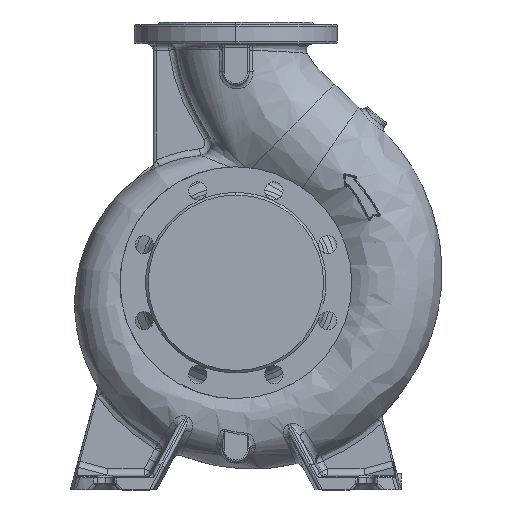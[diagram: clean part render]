
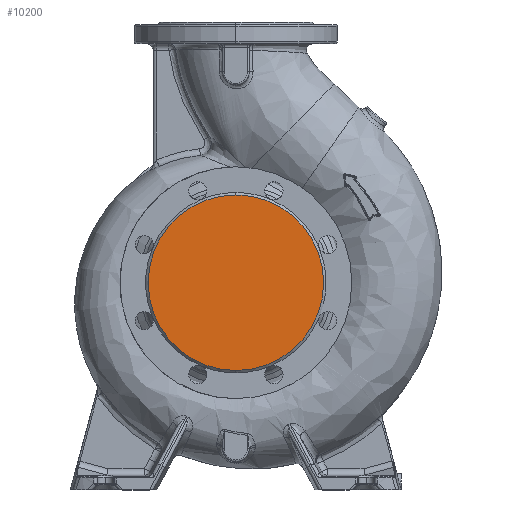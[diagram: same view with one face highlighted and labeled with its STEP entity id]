
A CAD part, top view. The second image highlights one B-rep face of the part: STEP entity #10200.
In plain terms, the highlighted planar face has unit normal (0, 0, 1).
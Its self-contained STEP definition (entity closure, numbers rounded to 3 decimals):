
#3052 = VERTEX_POINT ( 'NONE', #57705 ) ;
#4623 = CARTESIAN_POINT ( 'NONE',  ( 0., 0., 140. ) ) ;
#5466 = DIRECTION ( 'NONE',  ( 0., 0., -1. ) ) ;
#6826 = AXIS2_PLACEMENT_3D ( 'NONE', #63472, #5466, #62934 ) ;
#10200 = ADVANCED_FACE ( 'NONE', ( #71193 ), #60673, .F. ) ;
#13915 = CARTESIAN_POINT ( 'NONE',  ( 0., -106., 140. ) ) ;
#17178 = VERTEX_POINT ( 'NONE', #13915 ) ;
#18735 = ORIENTED_EDGE ( 'NONE', *, *, #60831, .F. ) ;
#34981 = DIRECTION ( 'NONE',  ( 0., 1., 0. ) ) ;
#36748 = CIRCLE ( 'NONE', #79995, 106. ) ;
#45479 = ORIENTED_EDGE ( 'NONE', *, *, #61054, .F. ) ;
#47518 = DIRECTION ( 'NONE',  ( 0., 0., -1. ) ) ;
#48348 = CARTESIAN_POINT ( 'NONE',  ( 0., 0., 140. ) ) ;
#49604 = EDGE_LOOP ( 'NONE', ( #45479, #18735 ) ) ;
#56742 = CIRCLE ( 'NONE', #6826, 106. ) ;
#57705 = CARTESIAN_POINT ( 'NONE',  ( 0., 106., 140. ) ) ;
#60112 = AXIS2_PLACEMENT_3D ( 'NONE', #48348, #47518, #61221 ) ;
#60673 = PLANE ( 'NONE',  #60112 ) ;
#60831 = EDGE_CURVE ( 'NONE', #17178, #3052, #36748, .T. ) ;
#61054 = EDGE_CURVE ( 'NONE', #3052, #17178, #56742, .T. ) ;
#61221 = DIRECTION ( 'NONE',  ( 0., 1., 0. ) ) ;
#62934 = DIRECTION ( 'NONE',  ( 0., 1., 0. ) ) ;
#63472 = CARTESIAN_POINT ( 'NONE',  ( 0., 0., 140. ) ) ;
#71193 = FACE_OUTER_BOUND ( 'NONE', #49604, .T. ) ;
#72952 = DIRECTION ( 'NONE',  ( 0., 0., -1. ) ) ;
#79995 = AXIS2_PLACEMENT_3D ( 'NONE', #4623, #72952, #34981 ) ;
